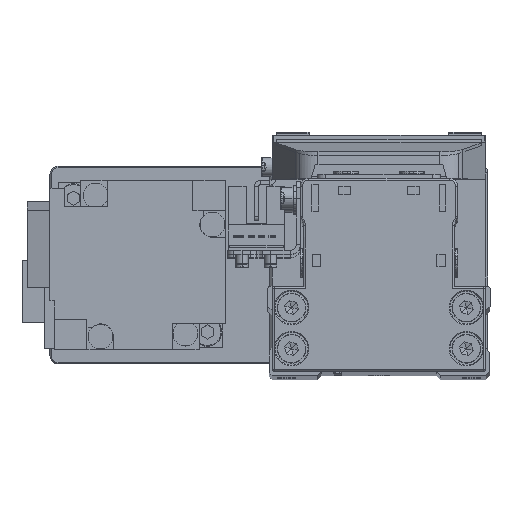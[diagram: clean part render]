
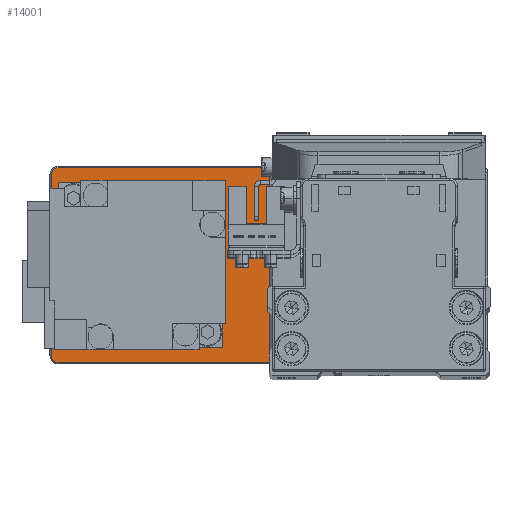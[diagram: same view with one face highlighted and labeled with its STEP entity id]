
A CAD part, top view. The second image highlights one B-rep face of the part: STEP entity #14001.
In plain terms, the highlighted planar face has unit normal (0, 0, 1).
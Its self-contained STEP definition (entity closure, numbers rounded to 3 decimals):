
#1305 = CIRCLE ( 'NONE', #24035, 1.7 ) ;
#1498 = DIRECTION ( 'NONE',  ( 1., 0., 0. ) ) ;
#1508 = CARTESIAN_POINT ( 'NONE',  ( 0., 0., 5. ) ) ;
#2139 = ORIENTED_EDGE ( 'NONE', *, *, #14046, .T. ) ;
#2343 = LINE ( 'NONE', #14741, #7460 ) ;
#2357 = DIRECTION ( 'NONE',  ( -1., 0., 0. ) ) ;
#2593 = CIRCLE ( 'NONE', #25330, 10.3 ) ;
#2674 = CARTESIAN_POINT ( 'NONE',  ( -50., -23.7, 5. ) ) ;
#3579 = DIRECTION ( 'NONE',  ( 1., 0., 0. ) ) ;
#4138 = CARTESIAN_POINT ( 'NONE',  ( 51.7, 22., 5. ) ) ;
#4554 = FACE_BOUND ( 'NONE', #29773, .T. ) ;
#4791 = DIRECTION ( 'NONE',  ( 1., 0., 0. ) ) ;
#5099 = CIRCLE ( 'NONE', #27817, 1.7 ) ;
#5523 = CARTESIAN_POINT ( 'NONE',  ( 42.8, 0., 5. ) ) ;
#5578 = DIRECTION ( 'NONE',  ( 0., 0., 1. ) ) ;
#5699 = CIRCLE ( 'NONE', #10892, 1.7 ) ;
#5873 = DIRECTION ( 'NONE',  ( 1., 0., 0. ) ) ;
#7057 = LINE ( 'NONE', #19480, #20990 ) ;
#7460 = VECTOR ( 'NONE', #27152, 1000. ) ;
#8831 = CIRCLE ( 'NONE', #31573, 10.3 ) ;
#9304 = VERTEX_POINT ( 'NONE', #2674 ) ;
#9367 = CARTESIAN_POINT ( 'NONE',  ( 17.2, 0., 5. ) ) ;
#9531 = CIRCLE ( 'NONE', #32265, 12.8 ) ;
#9972 = CARTESIAN_POINT ( 'NONE',  ( -51.7, 22., 5. ) ) ;
#10256 = CARTESIAN_POINT ( 'NONE',  ( 50., 23.7, 5. ) ) ;
#10352 = CARTESIAN_POINT ( 'NONE',  ( 50., -23.7, 5. ) ) ;
#10892 = AXIS2_PLACEMENT_3D ( 'NONE', #21317, #33742, #5873 ) ;
#11056 = DIRECTION ( 'NONE',  ( 0., 0., -1. ) ) ;
#11209 = EDGE_CURVE ( 'NONE', #23073, #19338, #2343, .T. ) ;
#11309 = CARTESIAN_POINT ( 'NONE',  ( -51.7, -22., 5. ) ) ;
#11547 = EDGE_CURVE ( 'NONE', #37591, #20441, #34113, .T. ) ;
#11965 = EDGE_LOOP ( 'NONE', ( #16250, #2139 ) ) ;
#12345 = ORIENTED_EDGE ( 'NONE', *, *, #36786, .T. ) ;
#13517 = CARTESIAN_POINT ( 'NONE',  ( -50., -22., 5. ) ) ;
#13908 = DIRECTION ( 'NONE',  ( 0., 0., 1. ) ) ;
#14001 = ADVANCED_FACE ( 'NONE', ( #32407, #4554, #16955 ), #29362, .T. ) ;
#14046 = EDGE_CURVE ( 'NONE', #29279, #37441, #9531, .T. ) ;
#14230 = CIRCLE ( 'NONE', #36957, 12.8 ) ;
#14433 = ORIENTED_EDGE ( 'NONE', *, *, #18566, .T. ) ;
#14564 = VERTEX_POINT ( 'NONE', #39461 ) ;
#14741 = CARTESIAN_POINT ( 'NONE',  ( -51.7, -22., 5. ) ) ;
#14744 = CARTESIAN_POINT ( 'NONE',  ( 30., 0., 5. ) ) ;
#16250 = ORIENTED_EDGE ( 'NONE', *, *, #19389, .T. ) ;
#16496 = EDGE_CURVE ( 'NONE', #14564, #23073, #5699, .T. ) ;
#16571 = AXIS2_PLACEMENT_3D ( 'NONE', #16943, #29350, #1498 ) ;
#16943 = CARTESIAN_POINT ( 'NONE',  ( 50., -22., 5. ) ) ;
#16955 = FACE_OUTER_BOUND ( 'NONE', #21691, .T. ) ;
#17145 = EDGE_CURVE ( 'NONE', #19338, #9304, #5099, .T. ) ;
#17818 = LINE ( 'NONE', #30205, #30763 ) ;
#17975 = DIRECTION ( 'NONE',  ( 1., 0., 0. ) ) ;
#18565 = ORIENTED_EDGE ( 'NONE', *, *, #30474, .T. ) ;
#18566 = EDGE_CURVE ( 'NONE', #28655, #31916, #2593, .T. ) ;
#18847 = VECTOR ( 'NONE', #22762, 1000. ) ;
#19028 = CARTESIAN_POINT ( 'NONE',  ( -28., 0., 5. ) ) ;
#19338 = VERTEX_POINT ( 'NONE', #11309 ) ;
#19389 = EDGE_CURVE ( 'NONE', #37441, #29279, #14230, .T. ) ;
#19480 = CARTESIAN_POINT ( 'NONE',  ( 51.7, 22., 5. ) ) ;
#20241 = CARTESIAN_POINT ( 'NONE',  ( -28., 0., 5. ) ) ;
#20441 = VERTEX_POINT ( 'NONE', #31708 ) ;
#20509 = EDGE_CURVE ( 'NONE', #9304, #37591, #38204, .T. ) ;
#20588 = ORIENTED_EDGE ( 'NONE', *, *, #20509, .T. ) ;
#20990 = VECTOR ( 'NONE', #31877, 1000. ) ;
#21317 = CARTESIAN_POINT ( 'NONE',  ( -50., 22., 5. ) ) ;
#21691 = EDGE_LOOP ( 'NONE', ( #20588, #28805, #35550, #18565, #30295, #36402, #26278, #35651 ) ) ;
#22762 = DIRECTION ( 'NONE',  ( 1., 0., 0. ) ) ;
#23073 = VERTEX_POINT ( 'NONE', #9972 ) ;
#23466 = DIRECTION ( 'NONE',  ( 1., 0., 0. ) ) ;
#23496 = VERTEX_POINT ( 'NONE', #4138 ) ;
#24035 = AXIS2_PLACEMENT_3D ( 'NONE', #33451, #5578, #17975 ) ;
#25330 = AXIS2_PLACEMENT_3D ( 'NONE', #20241, #32647, #4791 ) ;
#25927 = DIRECTION ( 'NONE',  ( 0., 0., 1. ) ) ;
#26278 = ORIENTED_EDGE ( 'NONE', *, *, #11209, .T. ) ;
#26313 = DIRECTION ( 'NONE',  ( 1., 0., 0. ) ) ;
#27152 = DIRECTION ( 'NONE',  ( 0., -1., 0. ) ) ;
#27155 = DIRECTION ( 'NONE',  ( 0., 0., -1. ) ) ;
#27341 = VERTEX_POINT ( 'NONE', #10256 ) ;
#27817 = AXIS2_PLACEMENT_3D ( 'NONE', #13517, #25927, #38329 ) ;
#28655 = VERTEX_POINT ( 'NONE', #38379 ) ;
#28805 = ORIENTED_EDGE ( 'NONE', *, *, #11547, .T. ) ;
#29279 = VERTEX_POINT ( 'NONE', #9367 ) ;
#29350 = DIRECTION ( 'NONE',  ( 0., 0., 1. ) ) ;
#29362 = PLANE ( 'NONE',  #39405 ) ;
#29773 = EDGE_LOOP ( 'NONE', ( #12345, #14433 ) ) ;
#30205 = CARTESIAN_POINT ( 'NONE',  ( -50., 23.7, 5. ) ) ;
#30295 = ORIENTED_EDGE ( 'NONE', *, *, #34297, .T. ) ;
#30474 = EDGE_CURVE ( 'NONE', #23496, #27341, #1305, .T. ) ;
#30763 = VECTOR ( 'NONE', #2357, 1000. ) ;
#31430 = DIRECTION ( 'NONE',  ( 0., 0., -1. ) ) ;
#31573 = AXIS2_PLACEMENT_3D ( 'NONE', #19028, #31430, #3579 ) ;
#31708 = CARTESIAN_POINT ( 'NONE',  ( 51.7, -22., 5. ) ) ;
#31877 = DIRECTION ( 'NONE',  ( 0., 1., 0. ) ) ;
#31916 = VERTEX_POINT ( 'NONE', #34017 ) ;
#32265 = AXIS2_PLACEMENT_3D ( 'NONE', #38909, #11056, #23466 ) ;
#32407 = FACE_BOUND ( 'NONE', #11965, .T. ) ;
#32647 = DIRECTION ( 'NONE',  ( 0., 0., -1. ) ) ;
#33451 = CARTESIAN_POINT ( 'NONE',  ( 50., 22., 5. ) ) ;
#33742 = DIRECTION ( 'NONE',  ( 0., 0., 1. ) ) ;
#34017 = CARTESIAN_POINT ( 'NONE',  ( -17.7, 0., 5. ) ) ;
#34113 = CIRCLE ( 'NONE', #16571, 1.7 ) ;
#34297 = EDGE_CURVE ( 'NONE', #27341, #14564, #17818, .T. ) ;
#34391 = CARTESIAN_POINT ( 'NONE',  ( 50., -23.7, 5. ) ) ;
#35123 = EDGE_CURVE ( 'NONE', #20441, #23496, #7057, .T. ) ;
#35550 = ORIENTED_EDGE ( 'NONE', *, *, #35123, .T. ) ;
#35651 = ORIENTED_EDGE ( 'NONE', *, *, #17145, .T. ) ;
#36402 = ORIENTED_EDGE ( 'NONE', *, *, #16496, .T. ) ;
#36786 = EDGE_CURVE ( 'NONE', #31916, #28655, #8831, .T. ) ;
#36957 = AXIS2_PLACEMENT_3D ( 'NONE', #14744, #27155, #39552 ) ;
#37441 = VERTEX_POINT ( 'NONE', #5523 ) ;
#37591 = VERTEX_POINT ( 'NONE', #34391 ) ;
#38204 = LINE ( 'NONE', #10352, #18847 ) ;
#38329 = DIRECTION ( 'NONE',  ( 1., 0., 0. ) ) ;
#38379 = CARTESIAN_POINT ( 'NONE',  ( -38.3, 0., 5. ) ) ;
#38909 = CARTESIAN_POINT ( 'NONE',  ( 30., 0., 5. ) ) ;
#39405 = AXIS2_PLACEMENT_3D ( 'NONE', #1508, #13908, #26313 ) ;
#39461 = CARTESIAN_POINT ( 'NONE',  ( -50., 23.7, 5. ) ) ;
#39552 = DIRECTION ( 'NONE',  ( 1., 0., 0. ) ) ;
